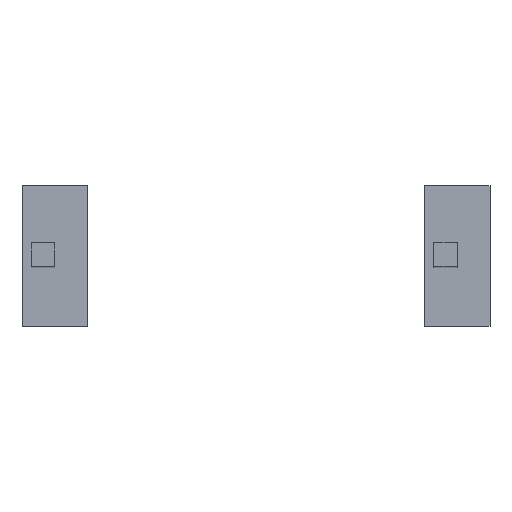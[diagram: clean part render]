
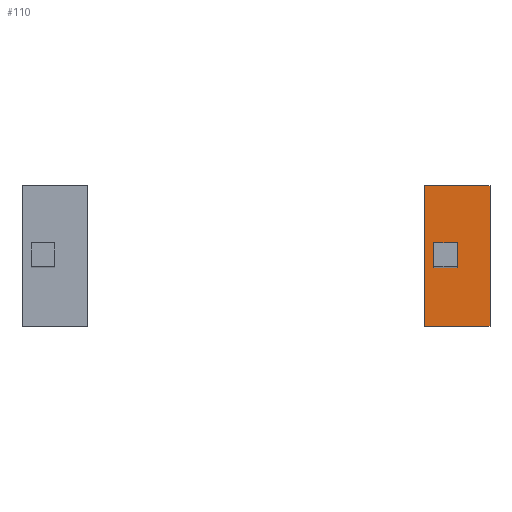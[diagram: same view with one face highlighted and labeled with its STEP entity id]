
A CAD part, top view. The second image highlights one B-rep face of the part: STEP entity #110.
In plain terms, the highlighted planar face has unit normal (0, 0, 1).
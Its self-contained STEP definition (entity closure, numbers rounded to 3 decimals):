
#110=ADVANCED_FACE('',(#162),#163,.T.);
#162=FACE_OUTER_BOUND('',#214,.T.);
#163=PLANE('',#215);
#214=EDGE_LOOP('',(#381,#382,#383,#384));
#215=AXIS2_PLACEMENT_3D('',#385,#386,#387);
#381=ORIENTED_EDGE('',*,*,#432,.F.);
#382=ORIENTED_EDGE('',*,*,#435,.F.);
#383=ORIENTED_EDGE('',*,*,#437,.F.);
#384=ORIENTED_EDGE('',*,*,#439,.F.);
#385=CARTESIAN_POINT('',(192.5,-75.0,0.0));
#386=DIRECTION('',(0.0,0.0,1.0));
#387=DIRECTION('',(1.0,0.0,0.0));
#432=EDGE_CURVE('',#508,#509,#510,.T.);
#435=EDGE_CURVE('',#513,#508,#514,.T.);
#437=EDGE_CURVE('',#516,#513,#517,.T.);
#439=EDGE_CURVE('',#509,#516,#519,.T.);
#508=VERTEX_POINT('',#628);
#509=VERTEX_POINT('',#629);
#510=LINE('',#630,#631);
#513=VERTEX_POINT('',#636);
#514=LINE('',#637,#638);
#516=VERTEX_POINT('',#641);
#517=LINE('',#642,#643);
#519=LINE('',#646,#647);
#628=CARTESIAN_POINT('',(262.5,-75.0,0.0));
#629=CARTESIAN_POINT('',(192.5,-75.0,0.0));
#630=CARTESIAN_POINT('',(262.5,-75.0,0.0));
#631=VECTOR('',#688,1.0);
#636=CARTESIAN_POINT('',(262.5,75.0,0.0));
#637=CARTESIAN_POINT('',(262.5,75.0,0.0));
#638=VECTOR('',#691,1.0);
#641=CARTESIAN_POINT('',(192.5,75.0,0.0));
#642=CARTESIAN_POINT('',(192.5,75.0,0.0));
#643=VECTOR('',#693,1.0);
#646=CARTESIAN_POINT('',(192.5,-75.0,0.0));
#647=VECTOR('',#695,1.0);
#688=DIRECTION('',(-1.0,0.0,0.0));
#691=DIRECTION('',(0.0,-1.0,0.0));
#693=DIRECTION('',(1.0,0.0,0.0));
#695=DIRECTION('',(0.0,1.0,0.0));
